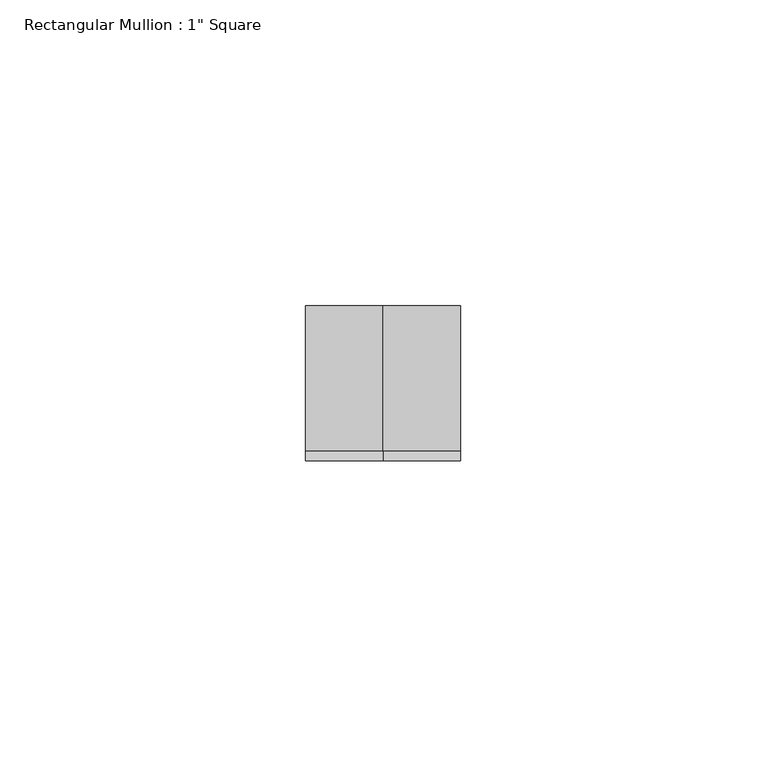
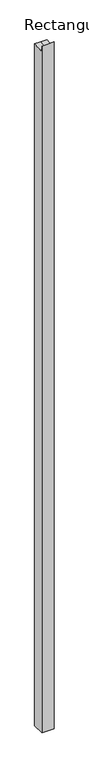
"""IFC4 building model written with IfcOpenShell, lengths in millimetres: member geometry."""

from ifc_helpers import new_model, si_unit, origin, place, context, project, spatial, faceted_brep, source, transform, mapped, element, save


def member_6d3da757(model_context):
    return source(origin(), model_context, "Body", "Brep", [
        faceted_brep([(12.7, 12.7, -1485.900006), (12.7, -12.7, -1485.900006), (-12.7, -12.7, -1485.900006), (-12.7, 12.7, -1485.900006), (-12.7, 12.7, 1.4996528), (0.0, 12.7, 1.4996528), (12.7, 12.7, 1.4996528), (-12.7, -12.7, 11.9031249), (-12.7, -11.0128906, -1.4878906), (12.7, -12.7, 11.9031249), (0.0, -12.7, 11.9031249), (12.7, -11.0128906, -1.4878906), (0.0, -11.0128906, -1.4878906)], [[[0, 1, 2, 3]], [[4, 5, 6, 0, 3]], [[7, 8, 4, 3, 2]], [[9, 10, 7, 2, 1]], [[6, 11, 9, 1, 0]], [[6, 5, 12, 11]], [[5, 4, 8, 12]], [[8, 7, 10, 12]], [[10, 9, 11, 12]]]),
    ])


if __name__ == "__main__":
    model = new_model("IFC4")
    model_context = context("Model", 3, world=origin())
    ifc_project = project(units=[si_unit("LENGTHUNIT", "METRE", prefix="MILLI")], contexts=[model_context])
    site = spatial("IfcSite", under=ifc_project)
    building = spatial("IfcBuilding", under=site)
    placement = place(None, origin())
    member_shape = member_6d3da757(model_context)
    element("IfcMember", 1, ObjectType="Rectangular Mullion : 1\" Square", at=placement, inside=building, context=model_context, shape_type="MappedRepresentation", body=[
        mapped(member_shape, transform((0.0, 0.0, 0.0), x_axis=(1.0, 0.0, 0.0), y_axis=(0.0, 1.0, 0.0), z_axis=(0.0, 0.0, 1.0))),
    ])
    save(model, "model.ifc")
